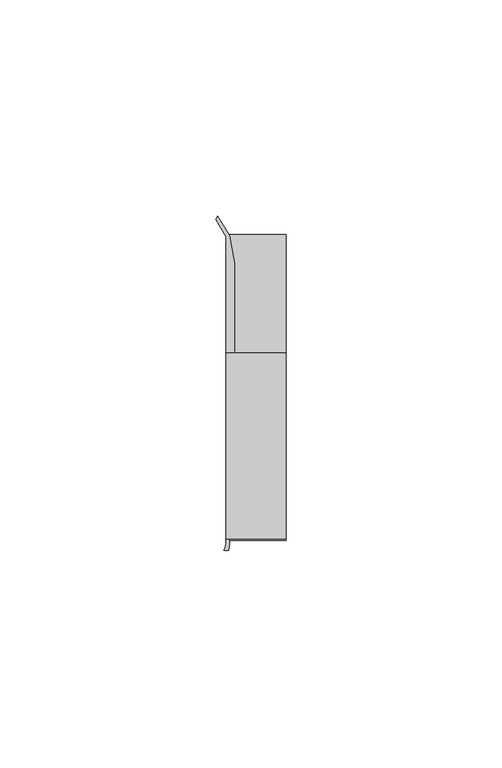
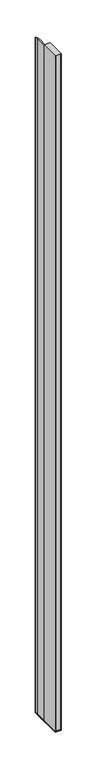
"""IFC4 building model written with IfcOpenShell, lengths in millimetres: furniture geometry."""

from ifc_helpers import new_model, si_unit, point, frame, frame_2d, origin, place, context, project, spatial, polyline, circle_curve, trimmed, segment, composite_curve, outline, extrude, source, transform, mapped, element, save


def furniture_40a82fad(model_context):
    return source(origin(), model_context, "Body", "SweptSolid", [
        extrude(outline(polyline([(31.9660873, 18.9594777), (31.9660873, -24.0995273), (18.0754623, -24.0995273), (18.0754623, 18.9594777), (31.9660873, 18.9594777)])), frame((0.0, 0.0, 487.8043624), z_axis=(0.0, 0.0, 1.0), x_axis=(1.0, 0.0, 0.0)), (0.0, 0.0, 1.0), 1614.0456376),
        extrude(outline(composite_curve([segment(polyline([(16.1635657, 50.6802202), (18.9314847, 46.0995711), (20.0632119, 39.6814262), (20.0632119, 18.9594777), (18.8191063, 18.9594777), (18.8191063, -23.2485144), (31.9660873, -23.2485144), (31.2224462, -24.0995273), (18.7989737, -24.0995273)]), True, "CONTINUOUS"), segment(trimmed(circle_curve(frame_2d((14.8541445, -25.0314921)), 4.0534227), [point((18.7989737, -24.0995273))], [point((18.9075389, -25.0466572))], False, "CARTESIAN"), True, "CONTINUOUS"), segment(trimmed(circle_curve(frame_2d((12.1306413, -24.765085)), 6.7827446), [point((18.9075389, -25.0466572))], [point((18.6374949, -26.6798903))], False, "CARTESIAN"), True, "CONTINUOUS"), segment(polyline([(18.6374949, -26.6798903), (17.6611556, -26.683687)]), True, "CONTINUOUS"), segment(trimmed(circle_curve(frame_2d((12.0703756, -24.4226588)), 6.0306773), [point((17.6611556, -26.683687))], [point((18.0754623, -24.9776388))], True, "CARTESIAN"), True, "CONTINUOUS"), segment(polyline([(18.0754623, -24.9776388), (18.0754623, 45.8886719), (15.7452137, 49.8958113), (16.1635657, 50.6802202)]), True, "CONTINUOUS")], self_intersect=False)), frame((0.0, 0.0, 487.8043624), z_axis=(0.0, 0.0, 1.0), x_axis=(1.0, 0.0, 0.0)), (0.0, 0.0, 1.0), 1614.0456376),
        extrude(outline(polyline([(18.0754623, -24.0995273), (18.0754623, 46.6824219), (31.9660873, 46.6824219), (31.9660873, -24.0995273), (18.0754623, -24.0995273)])), frame((0.0, 0.0, 485.27208), z_axis=(0.0, 0.0, 1.0), x_axis=(1.0, 0.0, 0.0)), (0.0, 0.0, 1.0), 2.5322824),
    ])


if __name__ == "__main__":
    model = new_model("IFC4")
    model_context = context("Model", 3, world=origin())
    ifc_project = project(units=[si_unit("LENGTHUNIT", "METRE", prefix="MILLI")], contexts=[model_context])
    site = spatial("IfcSite", under=ifc_project)
    building = spatial("IfcBuilding", under=site)
    placement = place(None, origin())
    furniture_shape = furniture_40a82fad(model_context)
    element("IfcFurniture", 1, ObjectType="HermanMiller_Compass_TW400_Close-OutSide : 89\"H Left  No Cutouts Use W/64H Sloped Cab Top", at=placement, inside=building, context=model_context, shape_type="MappedRepresentation", body=[
        mapped(furniture_shape, transform((0.0, 0.0, 0.0), x_axis=(1.0, 0.0, 0.0), y_axis=(0.0, 1.0, 0.0), z_axis=(0.0, 0.0, 1.0))),
    ])
    save(model, "model.ifc")
